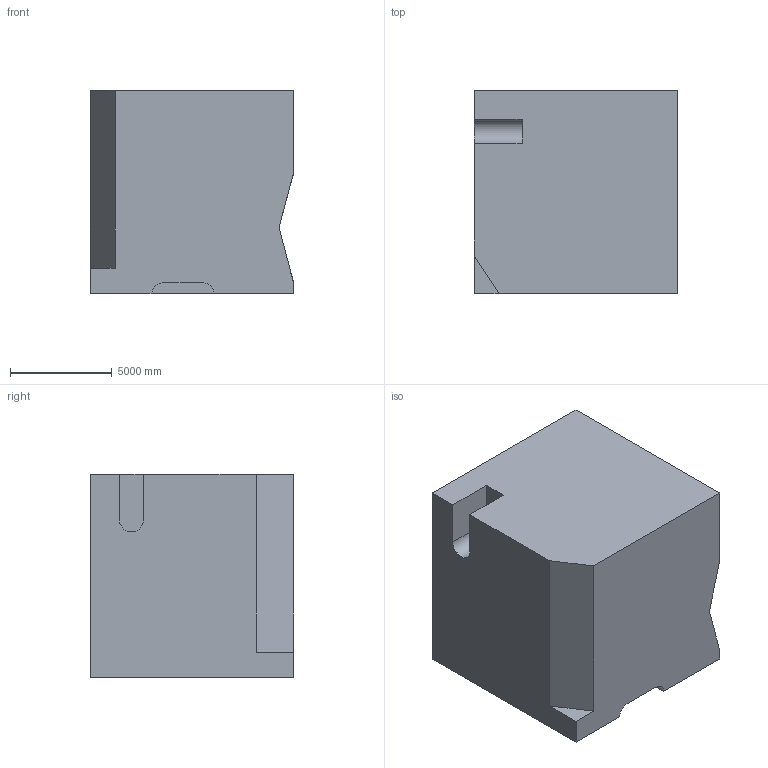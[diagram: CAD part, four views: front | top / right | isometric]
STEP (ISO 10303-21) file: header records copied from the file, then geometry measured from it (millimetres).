
FILE_DESCRIPTION (( 'STEP AP203' ), '1' );
FILE_NAME ('517.STEP', '2022-07-29T11:36:50', ( 'user' ), ( '' ), 'SwSTEP 2.0', 'SolidWorks 2021', '' );
FILE_SCHEMA (( 'CONFIG_CONTROL_DESIGN' ));
Length unit declared in the file: centimetre
Products named in the file (1): 517
Bounding box: 10000 x 10000 x 10000 mm (x, y, z)
Volume: 906091839778.8 mm3; surface area: 693669004.8 mm2
Topology: 1 solids, 1 shells, 27 faces, 72 edges, 48 vertices
Faces by surface type: plane 19, cylinder 8
Entity records: 919 total; most frequent: CARTESIAN_POINT 157, ORIENTED_EDGE 144, DIRECTION 141, EDGE_CURVE 72, LINE 53, VECTOR 53, VERTEX_POINT 48, AXIS2_PLACEMENT_3D 44
